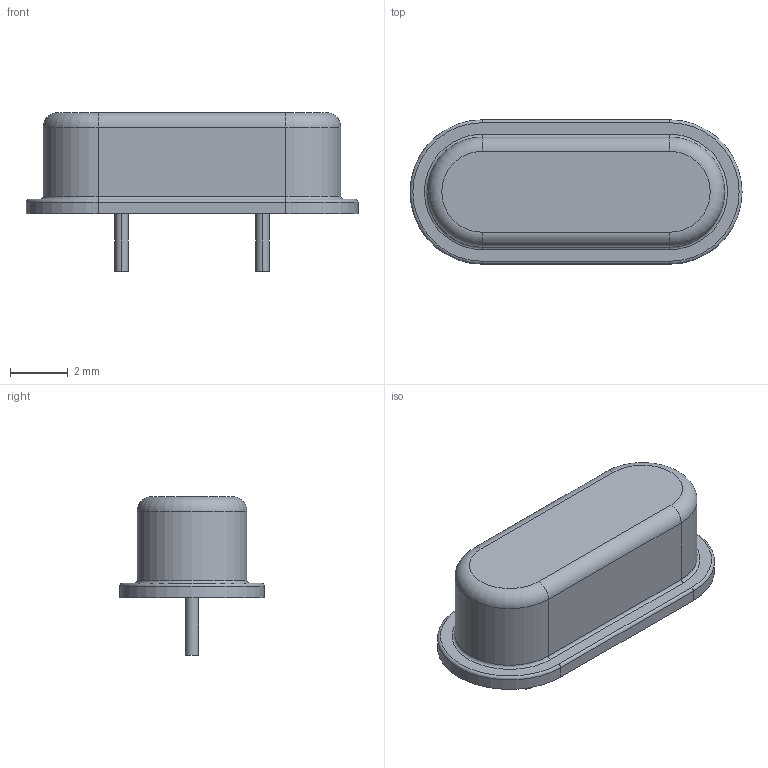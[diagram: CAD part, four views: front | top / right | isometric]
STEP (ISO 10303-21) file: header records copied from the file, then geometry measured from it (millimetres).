
FILE_DESCRIPTION (( 'STEP AP214' ), '1' );
FILE_NAME ( 'XTAL_HC49P488T45L1150W500H350.STEP', '2021-10-06T06:48:59', ( '' ), ( '' ), '', '©2017 PCB Libraries, Inc.', '' );
FILE_SCHEMA (( 'AUTOMOTIVE_DESIGN' ));
Length unit declared in the file: millimetre
Products named in the file (1): XTAL_HC49P488T45L1150W500H350
Bounding box: 11.5 x 5 x 5.5 mm (x, y, z)
Volume: 133.5 mm3; surface area: 192.1 mm2
Topology: 3 solids, 3 shells, 31 faces, 60 edges, 36 vertices
Faces by surface type: cylinder 14, plane 11, torus 6
Entity records: 933 total; most frequent: DIRECTION 158, CARTESIAN_POINT 128, ORIENTED_EDGE 120, AXIS2_PLACEMENT_3D 66, EDGE_CURVE 60, VERTEX_POINT 36, STYLED_ITEM 35, PRESENTATION_LAYER_ASSIGNMENT 35
